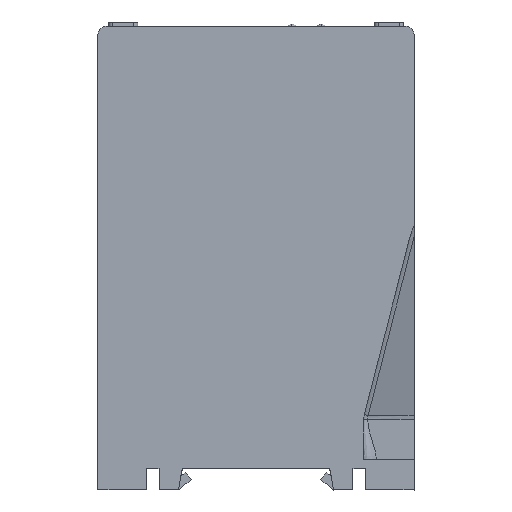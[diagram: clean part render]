
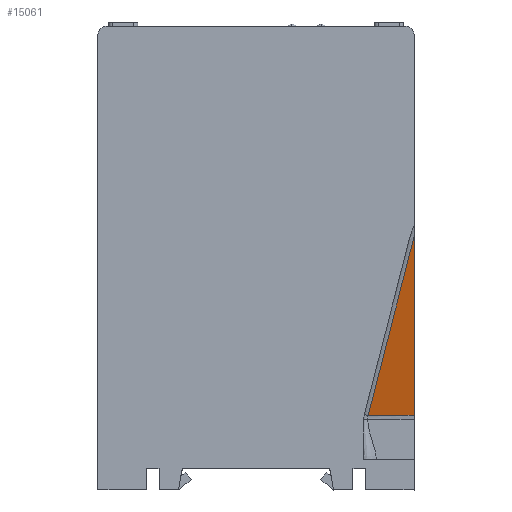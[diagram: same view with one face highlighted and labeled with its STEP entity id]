
A CAD part, left-side view. The second image highlights one B-rep face of the part: STEP entity #15061.
In plain terms, the highlighted planar face has unit normal (-0.968, 0, -0.249).
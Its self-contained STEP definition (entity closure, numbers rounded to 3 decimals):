
#2186 = CARTESIAN_POINT ( 'NONE',  ( 8.238, 7.269, 31.819 ) ) ;
#2346 = CARTESIAN_POINT ( 'NONE',  ( 11.872, 11.872, 17.697 ) ) ;
#3135 = LINE ( 'NONE', #14364, #6013 ) ;
#3750 = CARTESIAN_POINT ( 'NONE',  ( 11.872, 10.904, 17.697 ) ) ;
#5633 = EDGE_CURVE ( 'NONE', #11229, #11207, #13223, .T. ) ;
#6013 = VECTOR ( 'NONE', #14080, 1000. ) ;
#6698 = DIRECTION ( 'NONE',  ( -0.968, 0., -0.249 ) ) ;
#6746 = ORIENTED_EDGE ( 'NONE', *, *, #12893, .T. ) ;
#7118 = AXIS2_PLACEMENT_3D ( 'NONE', #2346, #6698, #8295 ) ;
#8295 = DIRECTION ( 'NONE',  ( -0.249, 0., 0.968 ) ) ;
#10257 = CARTESIAN_POINT ( 'NONE',  ( 11.872, 11.872, 17.697 ) ) ;
#11207 = VERTEX_POINT ( 'NONE', #14941 ) ;
#11229 = VERTEX_POINT ( 'NONE', #13256 ) ;
#11248 = EDGE_LOOP ( 'NONE', ( #17610, #18277, #6746 ) ) ;
#12089 = EDGE_CURVE ( 'NONE', #14532, #11229, #3135, .T. ) ;
#12577 = VECTOR ( 'NONE', #15960, 1000. ) ;
#12858 = LINE ( 'NONE', #10257, #12577 ) ;
#12893 = EDGE_CURVE ( 'NONE', #11207, #14532, #12858, .T. ) ;
#13046 = CARTESIAN_POINT ( 'NONE',  ( 11.872, 0., 17.697 ) ) ;
#13223 = B_SPLINE_CURVE_WITH_KNOTS ( 'NONE', 3,
 ( #13967, #13601, #2186, #3750 ),
 .UNSPECIFIED., .F., .F.,
 ( 4, 4 ),
 ( 0.102, 0.147 ),
 .UNSPECIFIED. ) ;
#13256 = CARTESIAN_POINT ( 'NONE',  ( 0.968, 0., 60.063 ) ) ;
#13601 = CARTESIAN_POINT ( 'NONE',  ( 4.603, 3.635, 45.941 ) ) ;
#13967 = CARTESIAN_POINT ( 'NONE',  ( 0.968, 0., 60.063 ) ) ;
#14080 = DIRECTION ( 'NONE',  ( -0.249, 0., 0.968 ) ) ;
#14364 = CARTESIAN_POINT ( 'NONE',  ( -8.039, 0., 95.063 ) ) ;
#14532 = VERTEX_POINT ( 'NONE', #13046 ) ;
#14941 = CARTESIAN_POINT ( 'NONE',  ( 11.872, 10.904, 17.697 ) ) ;
#15061 = ADVANCED_FACE ( 'NONE', ( #16745 ), #16848, .T. ) ;
#15960 = DIRECTION ( 'NONE',  ( 0., -1., 0. ) ) ;
#16745 = FACE_OUTER_BOUND ( 'NONE', #11248, .T. ) ;
#16848 = PLANE ( 'NONE',  #7118 ) ;
#17610 = ORIENTED_EDGE ( 'NONE', *, *, #12089, .T. ) ;
#18277 = ORIENTED_EDGE ( 'NONE', *, *, #5633, .T. ) ;
